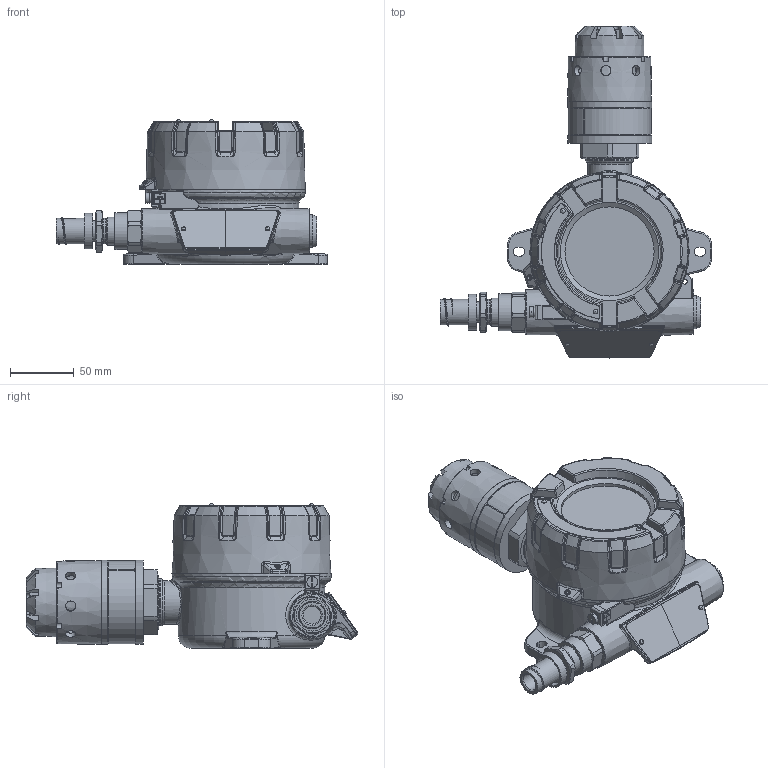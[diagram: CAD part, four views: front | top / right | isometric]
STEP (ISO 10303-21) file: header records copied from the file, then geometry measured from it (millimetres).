
FILE_DESCRIPTION(('STEP AP214'), '1');
FILE_NAME('ÄÃÑ ÝÐÈÑ-210 (êîðïóñ òèïà Á) ñ êàáåëüíûì ââîäîì è çàãëóøêîé_3D ìîäåëü', '2023-11-18T08:48:48', ('Alexandr'), (''), 'C3D Converter', 'C3D Toolkit', '');
FILE_SCHEMA(('AUTOMOTIVE_DESIGN { 1 0 10303 214 3 1 1}'));
Length unit declared in the file: millimetre
Products named in the file (1): АПНС.413216.212
Bounding box: 212.66 x 260.43 x 113.4 mm (x, y, z)
Volume: 781162.8 mm3; surface area: 301948.6 mm2
Topology: 37 solids, 37 shells, 1646 faces, 4112 edges, 2529 vertices
Faces by surface type: plane 489, bspline 455, cylinder 394, cone 192, torus 102, sphere 14
Full cylindrical faces by diameter (mm): 0.8 x3, 1.4 x9, 2 x11, 2.459 x11, 2.5 x2, 3.242 x2, 3.5 x2, 3.6 x4, 4 x3, 4.134 x1, 4.5 x1, 5 x2, 5.064 x1, 6 x1, 7 x1, 7.5 x1, 7.95 x8, 8.5 x1, 10 x2, 10.106 x1, 10.15 x1, 11.4 x1, 14 x2, 15.5 x1, 16 x3, 17 x1, 18.376 x3, 19 x1, 20 x5, 20.376 x1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
Entity records: 120695 total; most frequent: CARTESIAN_POINT 73414, ORIENTED_EDGE 7588, DIRECTION 5560, EDGE_CURVE 3794, VERTEX_POINT 2506, AXIS2_PLACEMENT_3D 2294, EDGE_LOOP 2026, COLOUR_RGB 1683
